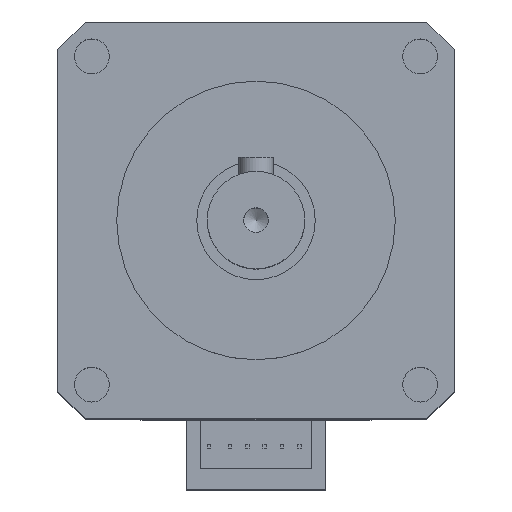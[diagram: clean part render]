
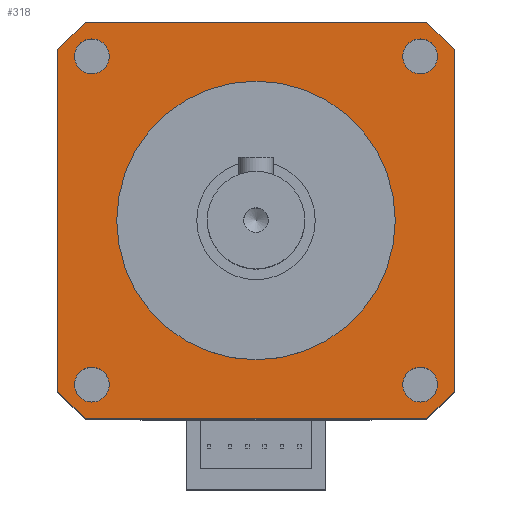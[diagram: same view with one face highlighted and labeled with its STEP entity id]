
A CAD part, top view. The second image highlights one B-rep face of the part: STEP entity #318.
In plain terms, the highlighted planar face has unit normal (0, 0, 1).
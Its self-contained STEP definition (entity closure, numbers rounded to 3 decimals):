
#318=ADVANCED_FACE('',(#1272,#1273,#1274,#1275,#1276,#1277),#485,.F.);
#485=PLANE('',#3206);
#608=LINE('',#4374,#936);
#612=LINE('',#4382,#940);
#615=LINE('',#4388,#943);
#618=LINE('',#4394,#946);
#620=LINE('',#4398,#948);
#621=LINE('',#4399,#949);
#622=LINE('',#4400,#950);
#623=LINE('',#4401,#951);
#936=VECTOR('',#3507,1.);
#940=VECTOR('',#3513,1.);
#943=VECTOR('',#3518,1.);
#946=VECTOR('',#3523,1.);
#948=VECTOR('',#3527,1.);
#949=VECTOR('',#3528,1.);
#950=VECTOR('',#3529,1.);
#951=VECTOR('',#3530,1.);
#1272=FACE_BOUND('',#1325,.T.);
#1273=FACE_BOUND('',#1326,.T.);
#1274=FACE_BOUND('',#1327,.T.);
#1275=FACE_BOUND('',#1328,.T.);
#1276=FACE_BOUND('',#1329,.T.);
#1277=FACE_BOUND('',#1330,.T.);
#1325=EDGE_LOOP('',(#1551));
#1326=EDGE_LOOP('',(#1552,#1553,#1554,#1555,#1556,#1557,#1558,#1559));
#1327=EDGE_LOOP('',(#1560));
#1328=EDGE_LOOP('',(#1561));
#1329=EDGE_LOOP('',(#1562));
#1330=EDGE_LOOP('',(#1563));
#1551=ORIENTED_EDGE('',*,*,#2670,.T.);
#1552=ORIENTED_EDGE('',*,*,#2675,.F.);
#1553=ORIENTED_EDGE('',*,*,#2683,.T.);
#1554=ORIENTED_EDGE('',*,*,#2671,.F.);
#1555=ORIENTED_EDGE('',*,*,#2684,.T.);
#1556=ORIENTED_EDGE('',*,*,#2681,.F.);
#1557=ORIENTED_EDGE('',*,*,#2685,.T.);
#1558=ORIENTED_EDGE('',*,*,#2678,.F.);
#1559=ORIENTED_EDGE('',*,*,#2686,.T.);
#1560=ORIENTED_EDGE('',*,*,#2687,.F.);
#1561=ORIENTED_EDGE('',*,*,#2688,.F.);
#1562=ORIENTED_EDGE('',*,*,#2689,.F.);
#1563=ORIENTED_EDGE('',*,*,#2690,.F.);
#2377=VERTEX_POINT('',#4371);
#2378=VERTEX_POINT('',#4375);
#2379=VERTEX_POINT('',#4376);
#2380=VERTEX_POINT('',#4381);
#2381=VERTEX_POINT('',#4383);
#2382=VERTEX_POINT('',#4387);
#2383=VERTEX_POINT('',#4389);
#2384=VERTEX_POINT('',#4393);
#2385=VERTEX_POINT('',#4395);
#2386=VERTEX_POINT('',#4403);
#2387=VERTEX_POINT('',#4405);
#2388=VERTEX_POINT('',#4407);
#2389=VERTEX_POINT('',#4409);
#2670=EDGE_CURVE('',#2377,#2377,#3086,.T.);
#2671=EDGE_CURVE('',#2378,#2379,#608,.T.);
#2675=EDGE_CURVE('',#2380,#2381,#612,.T.);
#2678=EDGE_CURVE('',#2382,#2383,#615,.T.);
#2681=EDGE_CURVE('',#2384,#2385,#618,.T.);
#2683=EDGE_CURVE('',#2380,#2379,#620,.T.);
#2684=EDGE_CURVE('',#2378,#2385,#621,.T.);
#2685=EDGE_CURVE('',#2384,#2383,#622,.T.);
#2686=EDGE_CURVE('',#2382,#2381,#623,.T.);
#2687=EDGE_CURVE('',#2386,#2386,#3087,.T.);
#2688=EDGE_CURVE('',#2387,#2387,#3088,.T.);
#2689=EDGE_CURVE('',#2388,#2388,#3089,.T.);
#2690=EDGE_CURVE('',#2389,#2389,#3090,.T.);
#3086=CIRCLE('',#3195,20.);
#3087=CIRCLE('',#3202,2.5);
#3088=CIRCLE('',#3203,2.5);
#3089=CIRCLE('',#3204,2.5);
#3090=CIRCLE('',#3205,2.5);
#3195=AXIS2_PLACEMENT_3D('',#4370,#3501,#3502);
#3202=AXIS2_PLACEMENT_3D('',#4402,#3531,#3532);
#3203=AXIS2_PLACEMENT_3D('',#4404,#3533,#3534);
#3204=AXIS2_PLACEMENT_3D('',#4406,#3535,#3536);
#3205=AXIS2_PLACEMENT_3D('',#4408,#3537,#3538);
#3206=AXIS2_PLACEMENT_3D('',#4410,#3539,#3540);
#3501=DIRECTION('',(0.,0.,-1.));
#3502=DIRECTION('',(1.,0.,0.));
#3507=DIRECTION('',(0.,1.,0.));
#3513=DIRECTION('',(1.,0.,0.));
#3518=DIRECTION('',(0.,-1.,0.));
#3523=DIRECTION('',(-1.,0.,0.));
#3527=DIRECTION('',(-0.707,-0.707,0.));
#3528=DIRECTION('',(0.707,-0.707,0.));
#3529=DIRECTION('',(0.707,0.707,0.));
#3530=DIRECTION('',(-0.707,0.707,0.));
#3531=DIRECTION('',(0.,0.,1.));
#3532=DIRECTION('',(1.,0.,0.));
#3533=DIRECTION('',(0.,0.,1.));
#3534=DIRECTION('',(1.,0.,0.));
#3535=DIRECTION('',(0.,0.,1.));
#3536=DIRECTION('',(1.,0.,0.));
#3537=DIRECTION('',(0.,0.,1.));
#3538=DIRECTION('',(1.,0.,0.));
#3539=DIRECTION('',(0.,0.,-1.));
#3540=DIRECTION('',(-1.,0.,0.));
#4370=CARTESIAN_POINT('',(0.,0.,0.));
#4371=CARTESIAN_POINT('',(20.,0.,0.));
#4374=CARTESIAN_POINT('',(-28.5,-28.5,0.));
#4375=CARTESIAN_POINT('',(-28.5,-24.5,0.));
#4376=CARTESIAN_POINT('',(-28.5,24.5,0.));
#4381=CARTESIAN_POINT('',(-24.5,28.5,0.));
#4382=CARTESIAN_POINT('',(-28.5,28.5,0.));
#4383=CARTESIAN_POINT('',(24.5,28.5,0.));
#4387=CARTESIAN_POINT('',(28.5,24.5,0.));
#4388=CARTESIAN_POINT('',(28.5,28.5,0.));
#4389=CARTESIAN_POINT('',(28.5,-24.5,0.));
#4393=CARTESIAN_POINT('',(24.5,-28.5,0.));
#4394=CARTESIAN_POINT('',(28.5,-28.5,0.));
#4395=CARTESIAN_POINT('',(-24.5,-28.5,0.));
#4398=CARTESIAN_POINT('',(-24.5,28.5,0.));
#4399=CARTESIAN_POINT('',(-28.5,-24.5,0.));
#4400=CARTESIAN_POINT('',(24.5,-28.5,0.));
#4401=CARTESIAN_POINT('',(28.5,24.5,0.));
#4402=CARTESIAN_POINT('',(-23.57,23.57,0.));
#4403=CARTESIAN_POINT('',(-21.07,23.57,0.));
#4404=CARTESIAN_POINT('',(23.57,23.57,0.));
#4405=CARTESIAN_POINT('',(26.07,23.57,0.));
#4406=CARTESIAN_POINT('',(23.57,-23.57,0.));
#4407=CARTESIAN_POINT('',(26.07,-23.57,0.));
#4408=CARTESIAN_POINT('',(-23.57,-23.57,0.));
#4409=CARTESIAN_POINT('',(-21.07,-23.57,0.));
#4410=CARTESIAN_POINT('',(-28.5,-28.5,0.));
